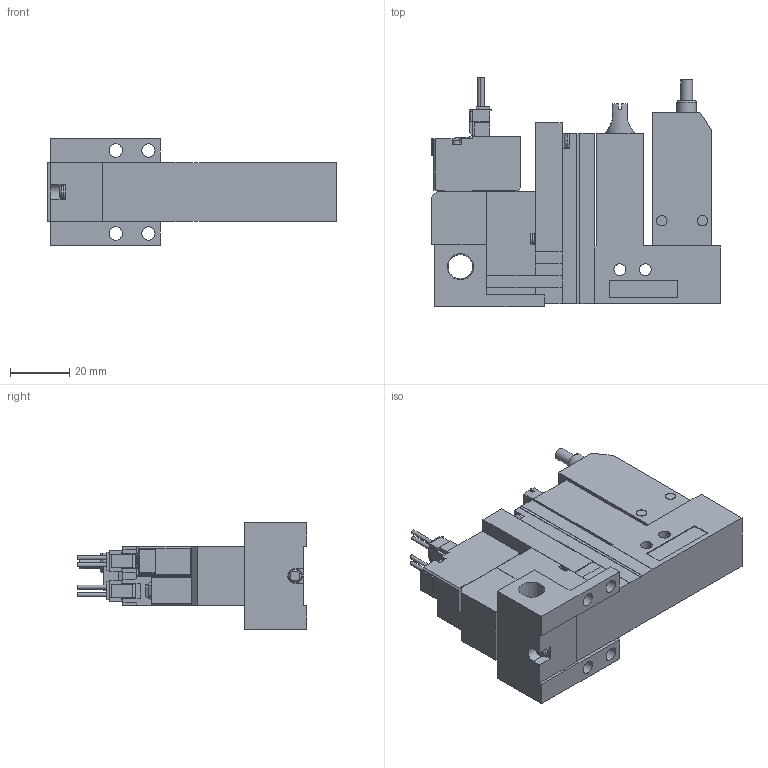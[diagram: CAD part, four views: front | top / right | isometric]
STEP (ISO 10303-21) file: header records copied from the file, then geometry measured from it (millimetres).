
FILE_DESCRIPTION(('STEP AP203'),'1');
FILE_NAME('ABS_ABPLC5ALR101.stp','2025-02-18T05:26:40',(' '),(' '),'Spatial InterOp 3D',' ',' ');
FILE_SCHEMA(('CONFIG_CONTROL_DESIGN'));
Length unit declared in the file: millimetre
Products named in the file (5): BMC22M※※※※ABS_ABPLC5ALR101; Solenoid valve A; Pressure sensor ABSLC; Unit LC; Base MR10R
Assembly tree (4 placements, depth 2):
  BMC22M※※※※ABS_ABPLC5ALR101
    Solenoid valve A
    Pressure sensor ABSLC
    Unit LC
    Base MR10R
Bounding box: 97.6 x 77.45 x 36 mm (x, y, z)
Volume: 107293.6 mm3; surface area: 29513.6 mm2
Topology: 4 solids, 4 shells, 432 faces, 1160 edges, 762 vertices
Faces by surface type: plane 364, cylinder 53, cone 9, torus 6
Full cylindrical faces by diameter (mm): 1.4 x4, 2.5 x1, 3 x4, 3.5 x6, 3.6 x1, 4 x3, 4.134 x1, 4.5 x4, 5.2 x1, 6 x1, 6.5 x1, 6.6 x1, 8.279 x1
Entity records: 13405 total; most frequent: CARTESIAN_POINT 2475, ORIENTED_EDGE 2194, DIRECTION 2110, EDGE_CURVE 1097, LINE 944, VECTOR 944, VERTEX_POINT 747, AXIS2_PLACEMENT_3D 583
